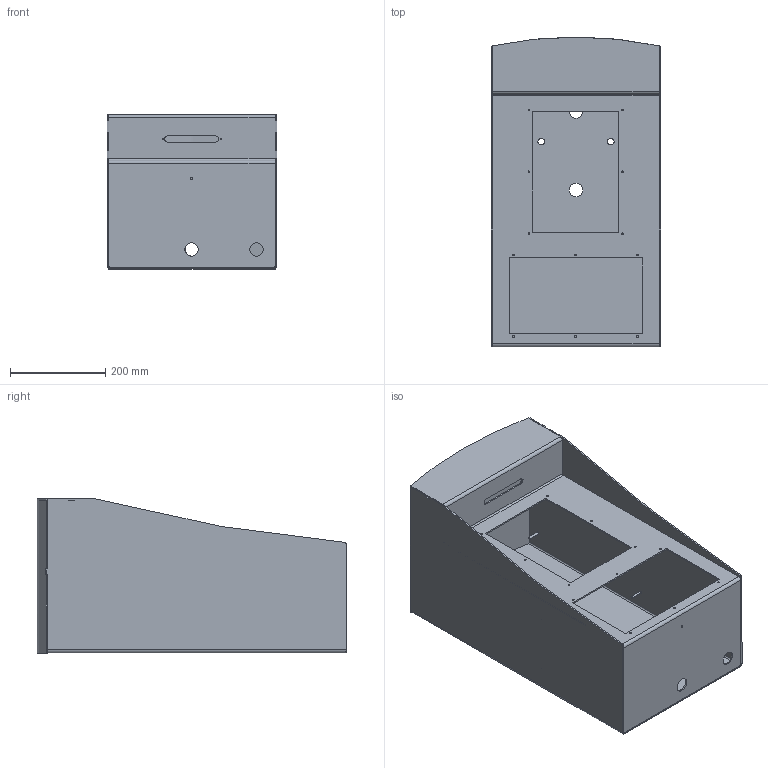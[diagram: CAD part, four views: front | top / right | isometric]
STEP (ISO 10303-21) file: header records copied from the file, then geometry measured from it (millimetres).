
FILE_DESCRIPTION (( 'STEP AP203' ), '1' );
FILE_NAME ('cad-123_CB4-u_dwg.STEP', '2019-05-03T01:45:13', ( '' ), ( '' ), 'SwSTEP 2.0', 'SolidWorks 2018', '' );
FILE_SCHEMA (( 'CONFIG_CONTROL_DESIGN' ));
Length unit declared in the file: inch
Products named in the file (1): cad-123_CB4-u_dwg
Bounding box: 355.49 x 651.1 x 324.51 mm (x, y, z)
Volume: 2821845.1 mm3; surface area: 1889198.3 mm2
Topology: 14 solids, 14 shells, 275 faces, 671 edges, 446 vertices
Faces by surface type: cylinder 140, plane 123, bspline 7, cone 5
Entity records: 8729 total; most frequent: CARTESIAN_POINT 1967, DIRECTION 1421, ORIENTED_EDGE 1342, EDGE_CURVE 671, AXIS2_PLACEMENT_3D 544, VERTEX_POINT 446, EDGE_LOOP 347, VECTOR 333
